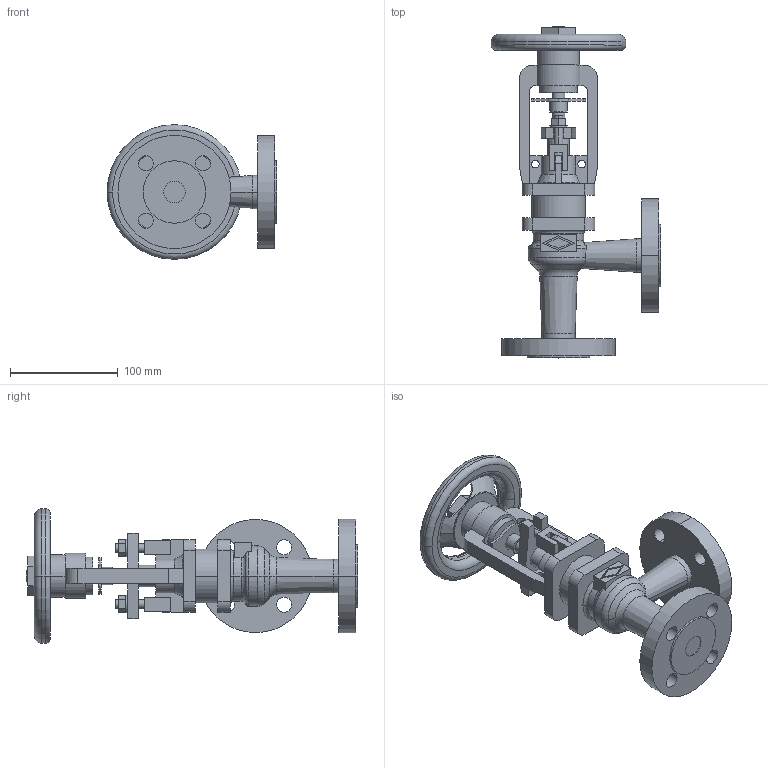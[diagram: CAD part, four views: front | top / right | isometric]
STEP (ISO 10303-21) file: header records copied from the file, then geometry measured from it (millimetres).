
FILE_DESCRIPTION(('OneSpaceDesigner STEP Export'),'2;1');
FILE_NAME('c000004446.stp','2010-05-17T 9:54:44',(''),(''),'OneSpace Designer STEP processor for AP214 (Solid Model)','OneSpace Modeling 15.50B 03-Nov-2007 (C) CoCreate Software GmbH','');
FILE_SCHEMA(('AUTOMOTIVE_DESIGN { 1 0 10303 214 1 1 1 1 }'));
Length unit declared in the file: millimetre
Products named in the file (1): 1
Bounding box: 157.5 x 308 x 125 mm (x, y, z)
Volume: 833324.9 mm3; surface area: 155325.4 mm2
Topology: 1 solids, 1 shells, 295 faces, 777 edges, 507 vertices
Faces by surface type: plane 140, cylinder 113, torus 26, cone 16
Entity records: 11474 total; most frequent: CARTESIAN_POINT 2136, ORIENTED_EDGE 1554, DIRECTION 1306, EDGE_CURVE 777, VERTEX_POINT 507, AXIS2_PLACEMENT_3D 441, VECTOR 424, LINE 424
